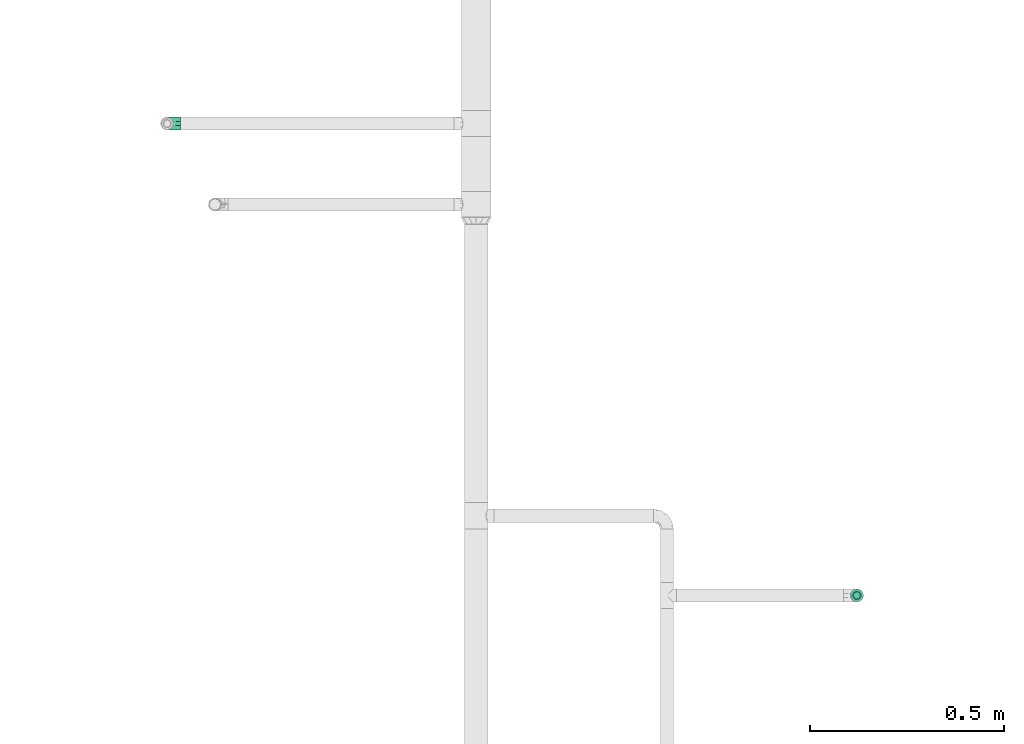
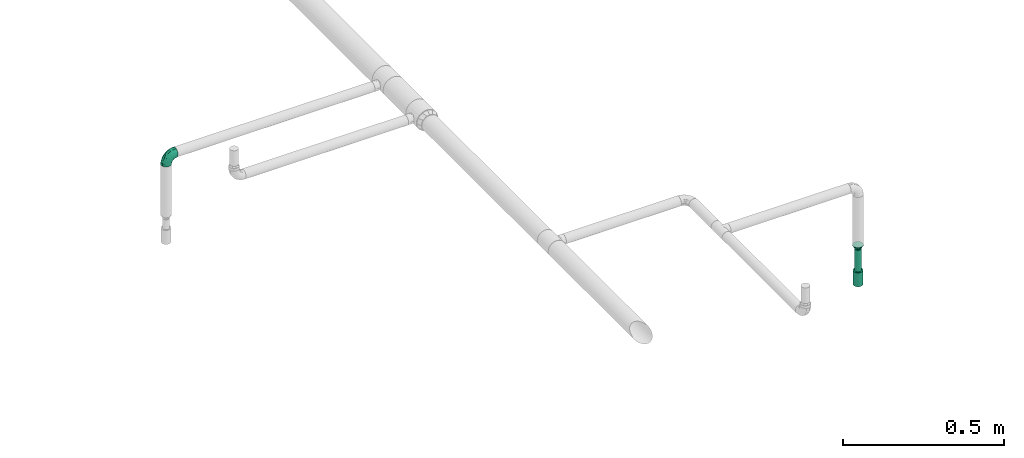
# One storey, part 29 of 43: 2 flow fittings, 1 flow segment, 1 flow terminal.
"""IFC2X3 building model written with IfcOpenShell, lengths in millimetres."""

from ifc_helpers import new_model, entity, si_unit, converted_unit, derived_unit, direction, frame, origin_with_axes, origin_2d_with_axis, place, context, subcontext, project, spatial, hollow_circle, extrude, open_shell, surface_model, source, transform, mapped, type_object, element, save


model = new_model("IFC2X3")

# Units and contexts
model_context = context("Model", 3, precision=0.01, world=frame((0.0, 4.29681676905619e-09, 0.0)), true_north=direction((4.01073788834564e-13, 1.0)))
plan_context = context("Plan", 3, precision=0.01, world=frame((0.0, 4.29681676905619e-09, 0.0)), true_north=direction((4.01073788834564e-13, 1.0)))
body_context = subcontext(model_context, "Body", "Model", "MODEL_VIEW")
ifc_project = project(units=[converted_unit("PLANEANGLEUNIT", "DEGREE", entity("IfcPositiveLengthMeasure", 0.0174532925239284), si_unit("PLANEANGLEUNIT", "RADIAN"), dimensions=[0, 0, 0, 0, 0, 0, 0]), si_unit("AREAUNIT", "SQUARE_METRE"), si_unit("LENGTHUNIT", "METRE", prefix="MILLI"), si_unit("MASSUNIT", "GRAM", prefix="KILO"), si_unit("POWERUNIT", "WATT"), si_unit("PRESSUREUNIT", "PASCAL"), si_unit("FORCEUNIT", "NEWTON", prefix="KILO"), si_unit("ELECTRICVOLTAGEUNIT", "VOLT"), si_unit("ELECTRICCURRENTUNIT", "AMPERE"), si_unit("THERMODYNAMICTEMPERATUREUNIT", "DEGREE_CELSIUS"), si_unit("TIMEUNIT", "SECOND"), si_unit("VOLUMEUNIT", "CUBIC_METRE"), derived_unit("LINEARVELOCITYUNIT", [(si_unit("LENGTHUNIT", "METRE"), 1), (si_unit("TIMEUNIT", "SECOND"), -1)]), derived_unit("VOLUMETRICFLOWRATEUNIT", [(si_unit("VOLUMEUNIT", "CUBIC_METRE"), 1), (si_unit("TIMEUNIT", "SECOND"), -1)]), derived_unit("THERMALTRANSMITTANCEUNIT", [(si_unit("POWERUNIT", "WATT"), 1), (si_unit("THERMODYNAMICTEMPERATUREUNIT", "KELVIN"), -1), (si_unit("AREAUNIT", "SQUARE_METRE"), -1)]), derived_unit("SOUNDPRESSUREUNIT", [(si_unit("PRESSUREUNIT", "PASCAL"), 1)])], contexts=[model_context, plan_context])

# Site, building, storey
site_placement = place(None, frame((0.0, -4.29681676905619e-09, 0.0), z_axis=(0.0, 0.0, 1.0), x_axis=(1.0, 0.0, 0.0)))
site = spatial("IfcSite", under=ifc_project, at=site_placement, CompositionType="ELEMENT")
building_placement = place(site_placement, frame((0.0, 4.29681676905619e-09, 0.0), z_axis=(0.0, 0.0, 1.0), x_axis=(1.0, 0.0, 0.0)))
building = spatial("IfcBuilding", under=site, at=building_placement, Name="mc-building", CompositionType="ELEMENT")
storey_placement = place(building_placement, frame((0.0, 0.0, 210900.0), z_axis=(0.0, 0.0, 1.0), x_axis=(1.0, 0.0, 0.0)))
storey = spatial("IfcBuildingStorey", under=building, at=storey_placement, Name="Nivå F", CompositionType="ELEMENT", Elevation=210900.0)

# Flow fittings
pipe_fitting_type_1 = type_object("IfcPipeFittingType", Name="magi_pipe_fe_elbow_short_001", PredefinedType="BEND")
shared_shape_1 = source(origin_with_axes(), body_context, "Body", "SurfaceModel", [
    surface_model("IfcShellBasedSurfaceModel", [(-33.8, 4.37404, -16.32415), (-33.8, 0.0, -16.9), (-33.8, 11.9501, -11.9501), (-33.8, 8.45, -14.63583), (-33.8, 16.32415, -4.37404), (-33.8, 14.63583, -8.45), (-33.8, -14.63583, -8.45), (-33.8, -16.32415, -4.37404), (-33.8, -8.45, 14.63583), (-33.8, -11.9501, -11.9501), (-33.8, -8.45, -14.63583), (-33.8, -4.37404, -16.32415), (-33.8, -16.9, 0.0), (-33.8, -16.32415, 4.37404), (-33.8, 11.9501, 11.9501), (-33.8, 14.63583, 8.45), (-33.8, 16.32415, 4.37404), (-33.8, 4.37404, 16.32415), (-33.8, 8.45, 14.63583), (-33.8, -14.63583, 8.45), (-33.8, -11.9501, 11.9501), (-33.8, -4.37404, 16.32415), (-33.8, 0.0, 16.9), (-33.8, 16.9, 0.0), (-11.9501, 33.8, -11.9501), (0.0, 33.8, -16.9), (-4.37404, 33.8, -16.32415), (-8.45, 33.8, -14.63583), (-14.63583, 33.8, -8.45), (-16.32415, 33.8, -4.37404), (14.63583, 33.8, -8.45), (8.45, 33.8, 14.63583), (16.32415, 33.8, -4.37404), (8.45, 33.8, -14.63583), (11.9501, 33.8, -11.9501), (4.37404, 33.8, -16.32415), (16.32415, 33.8, 4.37404), (16.9, 33.8, 0.0), (-11.9501, 33.8, 11.9501), (-16.32415, 33.8, 4.37404), (-14.63583, 33.8, 8.45), (-8.45, 33.8, 14.63583), (-4.37404, 33.8, 16.32415), (11.9501, 33.8, 11.9501), (14.63583, 33.8, 8.45), (0.0, 33.8, 16.9), (4.37404, 33.8, 16.32415), (-16.9, 33.8, 0.0), (-24.79389, -13.12945, 9.48721), (-22.19287, -9.75018, 12.59315), (-24.09897, -14.97035, 0.0), (-14.93934, -10.76256, 8.5297), (-22.46095, -14.75051, 5.27077), (14.75051, 22.46094, 5.27077), (11.9251, 13.23888, 4.33236), (13.04069, 14.39795, 0.0), (7.71387, 13.68847, 11.55891), (9.75018, 22.19287, 12.59315), (4.10169, 13.0571, 14.04018), (-24.84007, -6.39063, 15.2048), (-25.81779, -2.23879, 16.61097), (-23.66549, 2.59054, 16.87119), (-26.50418, 14.06512, 11.08152), (-24.21253, 17.66365, 7.72657), (-29.58514, 15.86957, 7.00283), (-6.17382, -7.5455, 0.0), (-13.23888, -11.9251, 4.33236), (-14.39795, -13.04069, 0.0), (-17.81434, 18.87373, 11.97104), (-6.30846, 29.15138, 15.82987), (-2.31622, 25.28002, 16.85849), (-29.23923, 10.23435, 13.77053), (-1.45439, -2.85688, 7.61475), (-0.28326, 0.34872, 10.09509), (-5.74484, -4.04709, 10.4122), (-4.41137, 11.31918, 16.59407), (-8.39727, 3.10034, 15.7812), (-1.72649, 9.1306, 15.53089), (-17.39909, 24.75344, 7.64977), (-26.19233, 20.0512, 0.0), (-28.14518, 17.29657, 4.25857), (-26.05147, 6.6281, 15.96447), (-5.87354, 16.61944, 16.86968), (-12.51807, 12.51807, 16.48937), (-10.06312, 7.38516, 16.81295), (-3.01882, 3.01882, 13.81718), (-13.0571, -4.10169, 14.04018), (-16.82553, -0.15166, 16.38038), (10.76256, 14.93934, 8.5297), (13.12945, 24.79389, 9.48721), (6.39063, 24.84007, 15.2048), (2.23879, 25.81779, 16.61097), (-13.68847, -7.71387, 11.55891), (14.97035, 24.09897, 0.0), (-7.30894, 22.89991, 16.09489), (-10.67958, 26.17414, 14.008), (-12.78295, 18.26924, 15.06066), (-13.88562, 22.45231, 12.93244), (-18.04944, 15.16501, 14.04434), (-23.11658, 20.08178, 4.02986), (-21.84989, 21.84989, 0.0), (-18.55817, 25.48277, 3.93065), (-13.95142, 26.94732, 11.03289), (-18.57098, 7.23906, 16.59756), (-16.58335, 4.14122, 16.89279), (-17.96666, 11.46709, 15.63151), (-9.84453, 17.54304, 16.18938), (0.15166, 16.82553, 16.38038), (-23.27207, 11.47201, 14.23154), (3.84842, 5.86994, 10.70473), (-8.0212, -7.54413, 7.93275), (1.00345, -2.19508, 4.57414), (5.13203, 3.01004, 5.90201), (5.24161, 1.7543, 2.53265), (8.70457, 7.04947, 3.99182), (-20.0512, 26.19233, 0.0), (8.4852, 8.76699, 7.09296), (-4.55488, -6.72064, 4.90681), (2.05031, -2.05031, 0.0), (7.5455, 6.17382, 0.0), (-26.75399, 2.1369, -16.845), (-14.61995, 24.73803, -11.27736), (-28.45274, -13.45335, -9.81895), (-26.00469, 6.63555, -15.96645), (-23.06726, 20.04573, -4.26202), (-13.80647, -4.26506, -14.17873), (-14.67501, -0.21081, -16.07388), (-6.7902, -0.2828, -13.8478), (-24.53586, 11.08096, -14.13417), (-26.72048, 14.00837, -11.05776), (10.0967, 24.44989, -12.75976), (5.83237, 21.40218, -15.03047), (6.66249, 28.54238, -15.38093), (-20.38182, 15.48705, -12.74596), (-15.65186, 19.64213, -13.01327), (-12.03528, 20.66498, -14.67665), (-15.61907, 15.61906, -14.83879), (-25.56551, -15.26206, 0.0), (-24.65452, -15.12934, -5.50955), (12.53268, 21.23441, -9.15363), (13.45335, 28.45274, -9.81895), (15.12934, 24.65452, -5.50955), (-7.35442, -8.31014, -5.65563), (-15.67504, -12.54494, -5.54878), (-24.44989, -10.0967, -12.75976), (0.16522, 0.41303, -9.71728), (-5.70658, -5.33066, -8.89288), (-5.13869, -2.37198, -11.53565), (-21.23441, -12.53268, -9.15363), (0.71146, 7.93863, -14.09382), (0.21081, 14.67501, -16.07388), (3.49291, 14.42772, -14.76381), (-24.89911, -2.13088, -16.591), (-28.54238, -6.66249, -15.38093), (-18.44386, -7.71663, -13.26957), (2.13088, 24.89911, -16.591), (-28.64342, 17.44413, -2.89318), (1.70017, -1.28722, -5.09504), (-16.57067, 26.81947, -7.36596), (-17.69055, 27.4263, -3.76405), (-12.89279, -9.7522, -8.66343), (-5.96611, 5.96611, -15.95814), (-20.53709, 20.09345, -8.28985), (-2.1369, 26.75399, -16.845), (-6.89872, 24.58781, -16.02578), (-10.60739, 26.53157, -13.98044), (-21.40218, -5.83237, -15.03047), (2.93192, 5.89627, -11.55917), (6.89393, 12.61842, -11.82233), (5.58056, 5.95325, -8.79455), (-3.99512, 18.61798, -16.89635), (-9.1383, 9.86148, -16.89041), (-9.99983, 16.02119, -16.39699), (-16.68576, 9.78031, -16.34199), (-27.01915, 16.61158, -7.12979), (15.26206, 25.56551, 0.0), (-18.61798, 3.99512, -16.89635), (-19.37495, 27.82495, 0.0), (9.7522, 12.89279, -8.66343), (-12.61842, -6.89393, -11.82233), (8.31014, 7.35442, -5.65563), (-18.84705, 19.14018, -10.96545), (12.54494, 15.67504, -5.54878)], [open_shell([[[0, 1, 2]], [[3, 0, 2]], [[4, 5, 2]], [[6, 2, 1]], [[2, 7, 8]], [[9, 6, 10]], [[1, 11, 10]], [[10, 6, 1]], [[2, 6, 7]], [[12, 13, 7]], [[4, 2, 14]], [[4, 15, 16]], [[4, 14, 15]], [[17, 18, 14]], [[14, 2, 8]], [[17, 14, 8]], [[19, 20, 13]], [[20, 7, 13]], [[21, 22, 8]], [[20, 8, 7]], [[8, 22, 17]], [[4, 16, 23]], [[24, 25, 26]], [[24, 26, 27]], [[24, 28, 29]], [[25, 24, 30]], [[31, 32, 24]], [[33, 30, 34]], [[33, 35, 25]], [[25, 30, 33]], [[32, 30, 24]], [[32, 36, 37]], [[38, 24, 29]], [[39, 40, 29]], [[40, 38, 29]], [[38, 41, 42]], [[38, 31, 24]], [[31, 38, 42]], [[36, 43, 44]], [[36, 32, 43]], [[31, 45, 46]], [[32, 31, 43]], [[42, 45, 31]], [[39, 29, 47]], [[20, 48, 49]], [[13, 12, 50]], [[51, 48, 52]], [[53, 54, 55]], [[48, 20, 19]], [[13, 52, 19]], [[56, 57, 58]], [[49, 8, 20]], [[49, 59, 8]], [[22, 60, 61]], [[62, 63, 64]], [[65, 66, 67]], [[57, 43, 31]], [[62, 68, 63]], [[42, 69, 70]], [[18, 71, 14]], [[21, 60, 22]], [[72, 73, 74]], [[75, 76, 77]], [[14, 62, 15]], [[40, 39, 78]], [[79, 23, 80]], [[64, 16, 15]], [[22, 61, 17]], [[17, 81, 18]], [[82, 83, 84]], [[74, 85, 86]], [[59, 86, 87]], [[88, 89, 57]], [[90, 31, 46]], [[44, 53, 36]], [[46, 45, 91]], [[54, 53, 88]], [[44, 89, 53]], [[92, 86, 49]], [[89, 44, 43]], [[8, 59, 21]], [[53, 55, 93]], [[93, 36, 53]], [[66, 52, 67]], [[94, 82, 70]], [[95, 96, 94]], [[97, 98, 96]], [[79, 99, 100]], [[41, 38, 95]], [[101, 100, 99]], [[68, 78, 63]], [[42, 41, 69]], [[23, 16, 80]], [[95, 94, 69]], [[78, 101, 99]], [[38, 102, 95]], [[70, 45, 42]], [[97, 95, 102]], [[13, 50, 52]], [[90, 57, 31]], [[57, 90, 58]], [[81, 17, 61]], [[103, 104, 84]], [[105, 81, 103]], [[38, 40, 102]], [[106, 96, 83]], [[94, 106, 82]], [[91, 70, 107]], [[71, 62, 14]], [[62, 108, 98]], [[86, 59, 49]], [[67, 52, 50]], [[60, 59, 87]], [[92, 49, 51]], [[86, 85, 76]], [[91, 90, 46]], [[37, 36, 93]], [[107, 77, 58]], [[107, 58, 90]], [[58, 85, 109]], [[110, 74, 92]], [[72, 74, 110]], [[66, 51, 52]], [[72, 111, 112]], [[113, 114, 112]], [[56, 88, 57]], [[52, 48, 19]], [[49, 48, 51]], [[57, 89, 43]], [[53, 89, 88]], [[103, 81, 61]], [[71, 81, 108]], [[16, 64, 80]], [[63, 78, 99]], [[47, 115, 101]], [[101, 115, 100]], [[40, 78, 102]], [[68, 102, 78]], [[97, 96, 95]], [[105, 98, 108]], [[103, 84, 83]], [[107, 70, 82]], [[76, 84, 87]], [[82, 84, 75]], [[70, 91, 45]], [[90, 91, 107]], [[59, 60, 21]], [[61, 60, 87]], [[73, 85, 74]], [[109, 112, 116]], [[103, 61, 104]], [[105, 103, 83]], [[96, 105, 83]], [[81, 105, 108]], [[96, 98, 105]], [[62, 98, 68]], [[61, 87, 104]], [[87, 84, 104]], [[86, 76, 87]], [[77, 76, 85]], [[58, 77, 85]], [[75, 77, 107]], [[82, 75, 107]], [[76, 75, 84]], [[81, 71, 18]], [[62, 71, 108]], [[95, 69, 41]], [[70, 69, 94]], [[62, 64, 15]], [[80, 63, 99]], [[63, 80, 64]], [[80, 99, 79]], [[66, 65, 117]], [[110, 66, 117]], [[112, 114, 116]], [[118, 117, 65]], [[110, 92, 51]], [[112, 111, 113]], [[119, 55, 54]], [[74, 86, 92]], [[58, 109, 56]], [[116, 56, 109]], [[66, 110, 51]], [[72, 110, 117]], [[111, 72, 117]], [[73, 112, 109]], [[117, 118, 111]], [[113, 111, 118]], [[118, 119, 113]], [[114, 119, 54]], [[119, 114, 113]], [[116, 54, 88]], [[54, 116, 114]], [[116, 88, 56]], [[112, 73, 72]], [[85, 73, 109]], [[78, 39, 101]], [[47, 101, 39]], [[102, 68, 97]], [[97, 68, 98]], [[82, 106, 83]], [[94, 96, 106]], [[0, 120, 1]], [[28, 24, 121]], [[9, 122, 6]], [[3, 123, 0]], [[100, 124, 79]], [[125, 126, 127]], [[128, 2, 129]], [[130, 131, 132]], [[128, 129, 133]], [[134, 135, 136]], [[128, 3, 2]], [[67, 137, 138]], [[139, 140, 141]], [[138, 7, 6]], [[142, 65, 143]], [[144, 9, 10]], [[145, 146, 147]], [[143, 138, 148]], [[149, 150, 151]], [[152, 11, 1]], [[10, 153, 144]], [[148, 144, 154]], [[153, 10, 11]], [[35, 155, 25]], [[23, 79, 156]], [[146, 157, 142]], [[158, 159, 29]], [[143, 160, 142]], [[161, 150, 149]], [[29, 28, 158]], [[121, 162, 158]], [[33, 34, 130]], [[25, 163, 26]], [[26, 163, 164]], [[140, 34, 30]], [[24, 27, 165]], [[124, 159, 162]], [[155, 35, 132]], [[153, 152, 166]], [[123, 3, 128]], [[167, 168, 169]], [[170, 155, 150]], [[26, 164, 27]], [[132, 35, 33]], [[140, 130, 34]], [[166, 152, 126]], [[133, 134, 136]], [[2, 5, 129]], [[168, 131, 130]], [[30, 32, 141]], [[170, 171, 172]], [[173, 123, 128]], [[156, 174, 4]], [[165, 27, 164]], [[172, 164, 170]], [[134, 165, 135]], [[122, 138, 6]], [[137, 12, 7]], [[32, 37, 175]], [[168, 130, 139]], [[150, 155, 131]], [[163, 155, 170]], [[151, 168, 149]], [[150, 161, 171]], [[166, 125, 154]], [[122, 144, 148]], [[120, 152, 1]], [[176, 171, 126]], [[176, 126, 152]], [[126, 161, 127]], [[160, 143, 148]], [[137, 7, 138]], [[32, 175, 141]], [[55, 141, 175]], [[174, 129, 5]], [[128, 133, 136]], [[173, 128, 136]], [[120, 123, 176]], [[121, 158, 28]], [[159, 100, 177]], [[164, 172, 135]], [[121, 24, 165]], [[159, 47, 29]], [[79, 124, 156]], [[124, 162, 174]], [[159, 124, 100]], [[178, 169, 168]], [[127, 161, 149]], [[145, 169, 157]], [[146, 142, 160]], [[127, 149, 167]], [[127, 179, 125]], [[129, 174, 162]], [[5, 4, 174]], [[157, 65, 142]], [[67, 138, 143]], [[123, 120, 0]], [[152, 120, 176]], [[155, 163, 25]], [[164, 163, 170]], [[170, 150, 171]], [[173, 136, 172]], [[126, 171, 161]], [[173, 171, 176]], [[171, 173, 172]], [[123, 173, 176]], [[148, 179, 160]], [[127, 147, 179]], [[179, 146, 160]], [[157, 146, 145]], [[169, 178, 180]], [[168, 139, 178]], [[157, 169, 180]], [[169, 145, 167]], [[167, 145, 147]], [[149, 168, 167]], [[162, 181, 129]], [[181, 121, 134]], [[179, 147, 146]], [[167, 147, 127]], [[181, 134, 133]], [[165, 134, 121]], [[164, 135, 165]], [[172, 136, 135]], [[129, 181, 133]], [[121, 181, 162]], [[159, 158, 162]], [[47, 159, 177]], [[174, 156, 124]], [[23, 156, 4]], [[130, 132, 33]], [[155, 132, 131]], [[141, 140, 30]], [[130, 140, 139]], [[152, 153, 11]], [[144, 153, 166]], [[144, 122, 9]], [[138, 122, 148]], [[150, 131, 151]], [[157, 119, 118]], [[67, 143, 65]], [[168, 151, 131]], [[119, 157, 180]], [[157, 118, 65]], [[154, 125, 179]], [[126, 125, 166]], [[148, 154, 179]], [[166, 154, 144]], [[139, 182, 178]], [[141, 182, 139]], [[178, 182, 180]], [[182, 55, 119]], [[141, 55, 182]], [[182, 119, 180]]])]),
])
flow_fitting_1_placement = place(storey_placement, frame((606983.98955, 696033.67925, 2660.0), z_axis=(0.0, -1.0, 0.0), x_axis=(-1.0, 0.0, 0.0)))
element("IfcFlowFitting", 1, at=flow_fitting_1_placement, inside=storey, type_object=pipe_fitting_type_1, Name="magi_pipe_fe_elbow_short_001", context=body_context, shape_type="MappedRepresentation", body=[
    mapped(shared_shape_1, transform((0.0, 0.0, 0.0), scale=1.0)),
])
pipe_fitting_type_2 = type_object("IfcPipeFittingType", Name="magi_pipe_fe_reducer_centric_short_NOR", PredefinedType="TRANSITION")
shared_shape_2 = source(origin_with_axes(), body_context, "Body", "SurfaceModel", [
    surface_model("IfcShellBasedSurfaceModel", [(14.4, 4.37404, -16.32415), (14.4, 8.45, -14.63583), (14.4, 11.9501, -11.9501), (14.4, -8.45, -14.63583), (14.4, 16.32415, -4.37404), (14.4, 16.32415, 4.37404), (14.4, 14.63583, -8.45), (14.4, 0.0, -16.9), (14.4, -4.37404, -16.32415), (14.4, -11.9501, -11.9501), (14.4, -16.32415, -4.37404), (14.4, -14.63583, -8.45), (14.4, -16.32415, 4.37404), (14.4, 16.9, 0.0), (14.4, 14.63583, 8.45), (14.4, 11.9501, 11.9501), (14.4, 4.37404, 16.32415), (14.4, 8.45, 14.63583), (14.4, 0.0, 16.9), (14.4, -14.63583, 8.45), (14.4, -16.9, 0.0), (14.4, -8.45, 14.63583), (14.4, -11.9501, 11.9501), (14.4, -4.37404, 16.32415), (12.4, 4.37404, 16.32415), (12.4, -14.63583, 8.45), (12.4, 0.0, 16.9), (12.4, 16.32415, 4.37404), (12.4, 8.45, 14.63583), (12.4, 11.9501, 11.9501), (12.4, 14.63583, 8.45), (12.4, -8.45, 14.63583), (12.4, -11.9501, 11.9501), (12.4, -4.37404, 16.32415), (12.4, -16.32415, 4.37404), (12.4, -16.32415, -4.37404), (12.4, -16.9, 0.0), (12.4, -8.45, -14.63583), (12.4, 16.32415, -4.37404), (12.4, 11.9501, -11.9501), (12.4, 14.63583, -8.45), (12.4, 8.45, -14.63583), (12.4, 4.37404, -16.32415), (12.4, 0.0, -16.9), (12.4, -11.9501, -11.9501), (12.4, -14.63583, -8.45), (12.4, -4.37404, -16.32415), (12.4, 16.9, 0.0), (-2.0, 10.33541, 2.76936), (-2.0, 0.0, 10.7), (-2.0, 2.76936, 10.33541), (-2.0, 7.56604, 7.56604), (-2.0, 5.35, 9.26647), (-2.0, 9.26647, 5.35), (-2.0, -9.26647, 5.35), (-2.0, -2.76936, 10.33541), (-2.0, -7.56604, 7.56604), (-2.0, -5.35, 9.26647), (-2.0, -10.33541, 2.76936), (-2.0, -10.33541, -2.76936), (-2.0, -10.7, 0.0), (-2.0, 10.33541, -2.76936), (-2.0, 7.56604, -7.56604), (-2.0, 9.26647, -5.35), (-2.0, 5.35, -9.26647), (-2.0, -5.35, -9.26647), (-2.0, 2.76936, -10.33541), (-2.0, -7.56604, -7.56604), (-2.0, -9.26647, -5.35), (-2.0, 0.0, -10.7), (-2.0, -2.76936, -10.33541), (-2.0, 10.7, 0.0), (0.0, 5.35, -9.26647), (0.0, 0.0, -10.7), (0.0, 2.76936, -10.33541), (0.0, 10.33541, -2.76936), (0.0, 7.56604, -7.56604), (0.0, -5.35, -9.26647), (0.0, 9.26647, -5.35), (0.0, -9.26647, 5.35), (0.0, -2.76936, -10.33541), (0.0, -7.56604, -7.56604), (0.0, -10.33541, -2.76936), (0.0, -9.26647, -5.35), (0.0, 10.33541, 2.76936), (0.0, 10.7, 0.0), (0.0, 9.26647, 5.35), (0.0, 7.56604, 7.56604), (0.0, 2.76936, 10.33541), (0.0, 0.0, 10.7), (0.0, 5.35, 9.26647), (0.0, -10.33541, 2.76936), (0.0, -10.7, 0.0), (0.0, -7.56604, 7.56604), (0.0, -2.76936, 10.33541), (0.0, -5.35, 9.26647), (0.0, -9.3625, -2.31662), (12.4, -14.42505, -5.97505), (12.4, -15.66253, -2.98753), (0.0, 6.6875, -6.94985), (12.4, 8.96258, -13.18758), (0.0, -6.6875, -6.94985), (12.4, -8.96258, -13.18758), (0.0, 9.3625, -2.31662), (12.4, 15.66253, -2.98753), (12.4, 14.42505, -5.97505), (12.4, -5.97505, -14.42505), (12.4, 5.97505, -14.42505), (0.0, 2.675, -9.26647), (12.4, 13.18758, -8.96258), (0.0, -2.675, -9.26647), (12.4, -13.18758, -8.96258), (0.0, -8.025, -4.63324), (12.4, 2.98753, -15.66253), (0.0, 0.0, -9.26647), (12.4, -2.98753, -15.66253), (0.0, 8.025, -4.63324), (0.0, 9.3625, 2.31662), (12.4, 14.42505, 5.97505), (12.4, 15.66253, 2.98753), (0.0, -6.6875, 6.94985), (12.4, -8.96258, 13.18758), (0.0, 6.6875, 6.94985), (12.4, 8.96258, 13.18758), (0.0, -9.3625, 2.31662), (12.4, -15.66253, 2.98753), (12.4, -14.42505, 5.97505), (12.4, 5.97505, 14.42505), (12.4, -5.97505, 14.42505), (0.0, -2.675, 9.26647), (12.4, -13.18758, 8.96258), (0.0, 2.675, 9.26647), (12.4, 13.18758, 8.96258), (0.0, 8.025, 4.63324), (12.4, -2.98753, 15.66253), (0.0, 0.0, 9.26647), (12.4, 2.98753, 15.66253), (0.0, -8.025, 4.63324)], [open_shell([[[0, 1, 2]], [[3, 0, 2]], [[2, 4, 5]], [[4, 2, 6]], [[2, 5, 3]], [[7, 3, 8]], [[7, 0, 3]], [[9, 10, 11]], [[10, 9, 3]], [[3, 12, 10]], [[5, 4, 13]], [[5, 14, 15]], [[5, 15, 16]], [[16, 12, 3]], [[16, 15, 17]], [[12, 16, 18]], [[18, 19, 12]], [[20, 10, 12]], [[19, 21, 22]], [[19, 18, 21]], [[21, 18, 23]], [[3, 5, 16]], [[24, 25, 26]], [[27, 24, 28]], [[29, 30, 27]], [[29, 27, 28]], [[25, 24, 27]], [[31, 25, 32]], [[31, 33, 26]], [[26, 25, 31]], [[34, 25, 27]], [[34, 35, 36]], [[34, 27, 37]], [[27, 38, 39]], [[39, 38, 40]], [[39, 41, 42]], [[37, 27, 39]], [[42, 43, 39]], [[35, 44, 45]], [[44, 35, 37]], [[37, 43, 46]], [[35, 34, 37]], [[39, 43, 37]], [[38, 27, 47]], [[35, 10, 36]], [[45, 11, 35]], [[3, 44, 37]], [[45, 44, 9]], [[8, 37, 46]], [[35, 11, 10]], [[10, 20, 36]], [[8, 3, 37]], [[9, 44, 3]], [[9, 11, 45]], [[7, 8, 46]], [[46, 43, 7]], [[42, 0, 43]], [[41, 1, 42]], [[6, 39, 40]], [[41, 39, 2]], [[4, 40, 38]], [[41, 2, 1]], [[1, 0, 42]], [[13, 4, 38]], [[6, 40, 4]], [[6, 2, 39]], [[47, 13, 38]], [[43, 0, 7]], [[27, 5, 47]], [[30, 14, 27]], [[17, 29, 28]], [[30, 29, 15]], [[16, 28, 24]], [[27, 14, 5]], [[5, 13, 47]], [[16, 17, 28]], [[15, 29, 17]], [[15, 14, 30]], [[18, 16, 24]], [[24, 26, 18]], [[33, 23, 26]], [[31, 21, 33]], [[19, 32, 25]], [[31, 32, 22]], [[12, 25, 34]], [[31, 22, 21]], [[21, 23, 33]], [[20, 12, 34]], [[19, 25, 12]], [[19, 22, 32]], [[36, 20, 34]], [[26, 23, 18]], [[48, 49, 50]], [[51, 50, 52]], [[51, 53, 48]], [[51, 48, 50]], [[49, 48, 54]], [[55, 56, 57]], [[56, 55, 54]], [[58, 59, 60]], [[54, 55, 49]], [[58, 54, 59]], [[54, 48, 61]], [[59, 54, 61]], [[62, 61, 63]], [[59, 62, 64]], [[61, 62, 59]], [[65, 64, 66]], [[59, 67, 68]], [[67, 59, 65]], [[65, 69, 70]], [[65, 59, 64]], [[66, 69, 65]], [[61, 48, 71]], [[72, 73, 74]], [[75, 72, 76]], [[77, 72, 75]], [[75, 76, 78]], [[79, 77, 75]], [[73, 77, 80]], [[73, 72, 77]], [[81, 82, 83]], [[82, 81, 77]], [[77, 79, 82]], [[84, 75, 85]], [[84, 86, 87]], [[75, 87, 79]], [[88, 89, 87]], [[88, 87, 90]], [[79, 87, 89]], [[82, 91, 92]], [[79, 91, 82]], [[93, 94, 95]], [[94, 93, 79]], [[89, 94, 79]], [[75, 84, 87]], [[59, 82, 60]], [[68, 83, 59]], [[77, 67, 65]], [[68, 67, 81]], [[80, 65, 70]], [[59, 83, 82]], [[82, 92, 60]], [[80, 77, 65]], [[81, 67, 77]], [[81, 83, 68]], [[73, 80, 70]], [[70, 69, 73]], [[66, 74, 69]], [[64, 72, 66]], [[78, 62, 63]], [[64, 62, 76]], [[75, 63, 61]], [[64, 76, 72]], [[72, 74, 66]], [[85, 75, 61]], [[78, 63, 75]], [[78, 76, 62]], [[71, 85, 61]], [[69, 74, 73]], [[48, 84, 71]], [[53, 86, 48]], [[90, 51, 52]], [[53, 51, 87]], [[88, 52, 50]], [[48, 86, 84]], [[84, 85, 71]], [[88, 90, 52]], [[87, 51, 90]], [[87, 86, 53]], [[89, 88, 50]], [[50, 49, 89]], [[55, 94, 49]], [[57, 95, 55]], [[79, 56, 54]], [[57, 56, 93]], [[91, 54, 58]], [[57, 93, 95]], [[95, 94, 55]], [[92, 91, 58]], [[79, 54, 91]], [[79, 93, 56]], [[60, 92, 58]], [[49, 94, 89]], [[29, 26, 39]], [[39, 47, 29]], [[36, 26, 32]], [[36, 44, 43]], [[43, 39, 36]], [[36, 39, 26]], [[92, 95, 77]], [[85, 95, 90]], [[85, 72, 77]], [[85, 77, 95]], [[96, 97, 98]], [[92, 96, 98]], [[99, 100, 72]], [[98, 36, 92]], [[44, 101, 102]], [[101, 77, 102]], [[103, 104, 105]], [[85, 47, 104]], [[77, 106, 102]], [[107, 108, 72]], [[109, 39, 99]], [[106, 77, 110]], [[101, 111, 112]], [[113, 114, 108]], [[100, 99, 39]], [[110, 115, 106]], [[99, 116, 109]], [[100, 107, 72]], [[96, 112, 97]], [[105, 116, 103]], [[85, 104, 103]], [[108, 107, 113]], [[113, 43, 114]], [[116, 105, 109]], [[114, 115, 110]], [[43, 115, 114]], [[111, 101, 44]], [[111, 97, 112]], [[117, 118, 119]], [[85, 117, 119]], [[120, 121, 95]], [[119, 47, 85]], [[29, 122, 123]], [[122, 90, 123]], [[124, 125, 126]], [[92, 36, 125]], [[90, 127, 123]], [[128, 129, 95]], [[130, 32, 120]], [[127, 90, 131]], [[122, 132, 133]], [[134, 135, 129]], [[121, 120, 32]], [[131, 136, 127]], [[120, 137, 130]], [[121, 128, 95]], [[117, 133, 118]], [[126, 137, 124]], [[92, 125, 124]], [[129, 128, 134]], [[134, 26, 135]], [[137, 126, 130]], [[135, 136, 131]], [[26, 136, 135]], [[132, 122, 29]], [[132, 118, 133]]])]),
])
flow_fitting_2_placement = place(storey_placement, frame((608759.56903, 694818.86468, 2421.95199999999), z_axis=(0.0, 1.0, 0.0), x_axis=(0.0, 0.0, 1.0)))
element("IfcFlowFitting", 2, at=flow_fitting_2_placement, inside=storey, type_object=pipe_fitting_type_2, Name="magi_pipe_fe_reducer_centric_short_NOR", context=body_context, shape_type="MappedRepresentation", body=[
    mapped(shared_shape_2, transform((0.0, 0.0, 0.0), scale=1.0)),
])

# Flow segment
pipe_segment_type = type_object("IfcPipeSegmentType", Name="Stålrør normaltykke", PredefinedType="RIGIDSEGMENT")
shared_shape_3 = source(origin_with_axes(), body_context, "Body", "SweptSolid", [
    extrude(hollow_circle(Radius=10.7, WallThickness=2.0, at=origin_2d_with_axis()), frame((0.0, 0.0, 0.0), z_axis=(1.0, 0.0, 0.0), x_axis=(0.0, 1.0, 0.0)), (0.0, 0.0, 1.0), 84.7),
])
flow_segment_placement = place(storey_placement, frame((608759.56903, 694818.86468, 2337.20444), z_axis=(0.0, 1.0, 0.0), x_axis=(0.0, 0.0, 1.0)))
element("IfcFlowSegment", 3, at=flow_segment_placement, inside=storey, type_object=pipe_segment_type, Name="Stålrør normaltykke", context=body_context, shape_type="MappedRepresentation", body=[
    mapped(shared_shape_3, transform((0.0, 0.0, 0.0), scale=1.0)),
])

# Flow terminal
fire_suppression_terminal_type = type_object("IfcFireSuppressionTerminalType", Name="SP-15-K80-68DGR-STD-HIMLING", PredefinedType="NOTDEFINED")
shared_shape_4 = source(origin_with_axes(), body_context, "Body", "SurfaceModel", [
    surface_model("IfcShellBasedSurfaceModel", [(4.1411, -15.45481, 53.0), (8.0, -13.85641, 53.0), (11.31371, -11.31371, 53.0), (-8.0, -13.85641, 53.0), (15.45481, -4.1411, 53.0), (16.0, 0.0, 53.0), (13.85641, -8.0, 53.0), (0.0, -16.0, 53.0), (-4.1411, -15.45481, 53.0), (-13.85641, -8.0, 53.0), (-11.31371, -11.31371, 53.0), (-15.45481, -4.1411, 53.0), (15.45481, 4.1411, 53.0), (13.85641, 8.0, 53.0), (11.31371, 11.31371, 53.0), (-4.1411, 15.45481, 53.0), (8.0, 13.85641, 53.0), (4.1411, 15.45481, 53.0), (0.0, 16.0, 53.0), (-13.85641, 8.0, 53.0), (-15.45481, 4.1411, 53.0), (-16.0, 0.0, 53.0), (-11.31371, 11.31371, 53.0), (-8.0, 13.85641, 53.0), (0.0, 16.0, 0.0), (4.1411, 15.45481, 0.0), (8.0, 13.85641, 0.0), (-4.1411, 15.45481, 0.0), (11.31371, 11.31371, 0.0), (13.85641, 8.0, 0.0), (15.45481, 4.1411, 0.0), (-15.45481, -4.1411, 0.0), (-11.31371, 11.31371, 0.0), (-8.0, 13.85641, 0.0), (-13.85641, 8.0, 0.0), (-15.45481, 4.1411, 0.0), (-16.0, 0.0, 0.0), (4.1411, -15.45481, 0.0), (16.0, 0.0, 0.0), (15.45481, -4.1411, 0.0), (13.85641, -8.0, 0.0), (11.31371, -11.31371, 0.0), (8.0, -13.85641, 0.0), (-8.0, -13.85641, 0.0), (-13.85641, -8.0, 0.0), (-11.31371, -11.31371, 0.0), (0.0, -16.0, 0.0), (-4.1411, -15.45481, 0.0)], [open_shell([[[0, 1, 2]], [[3, 0, 2]], [[4, 5, 2]], [[4, 2, 6]], [[3, 2, 5]], [[7, 3, 8]], [[7, 0, 3]], [[3, 9, 10]], [[9, 3, 11]], [[5, 11, 3]], [[5, 12, 11]], [[12, 13, 14]], [[15, 12, 14]], [[16, 17, 18]], [[14, 16, 15]], [[18, 15, 16]], [[11, 19, 20]], [[21, 11, 20]], [[22, 15, 23]], [[15, 22, 19]], [[19, 11, 15]], [[11, 12, 15]], [[24, 25, 26]], [[27, 24, 26]], [[28, 29, 30]], [[27, 26, 28]], [[27, 28, 31]], [[27, 32, 33]], [[32, 27, 34]], [[34, 31, 35]], [[31, 34, 27]], [[35, 31, 36]], [[28, 30, 31]], [[37, 38, 39]], [[37, 39, 40]], [[41, 42, 37]], [[41, 37, 40]], [[38, 37, 43]], [[44, 43, 45]], [[43, 44, 31]], [[43, 46, 47]], [[43, 31, 38]], [[37, 46, 43]], [[38, 31, 30]], [[11, 31, 44]], [[45, 9, 44]], [[3, 43, 47]], [[45, 43, 10]], [[8, 47, 46]], [[31, 21, 36]], [[31, 11, 21]], [[44, 9, 11]], [[45, 10, 9]], [[3, 10, 43]], [[47, 8, 3]], [[46, 7, 8]], [[0, 37, 42]], [[41, 1, 42]], [[6, 40, 39]], [[41, 40, 2]], [[4, 39, 38]], [[37, 0, 7]], [[42, 1, 0]], [[41, 2, 1]], [[40, 6, 2]], [[4, 6, 39]], [[38, 5, 4]], [[37, 7, 46]], [[12, 38, 30]], [[13, 30, 29]], [[16, 26, 25]], [[17, 25, 24]], [[30, 13, 12]], [[12, 5, 38]], [[28, 14, 13]], [[28, 26, 14]], [[14, 26, 16]], [[25, 17, 16]], [[28, 13, 29]], [[24, 18, 17]], [[15, 27, 33]], [[32, 23, 33]], [[19, 34, 35]], [[32, 34, 22]], [[20, 35, 36]], [[27, 15, 18]], [[33, 23, 15]], [[32, 22, 23]], [[34, 19, 22]], [[20, 19, 35]], [[36, 21, 20]], [[27, 18, 24]]])]),
])
flow_terminal_placement = place(storey_placement, frame((608759.56903, 694818.86468, 2340.25244000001), z_axis=(0.0, 0.0, -1.0), x_axis=(-1.0, 0.0, 0.0)))
element("IfcFlowTerminal", 4, at=flow_terminal_placement, inside=storey, type_object=fire_suppression_terminal_type, Name="SP-15-K80-68DGR-STD-HIMLING", context=body_context, shape_type="MappedRepresentation", body=[
    mapped(shared_shape_4, transform((0.0, 0.0, 0.0), scale=1.0)),
])

save(model, "model.ifc")
